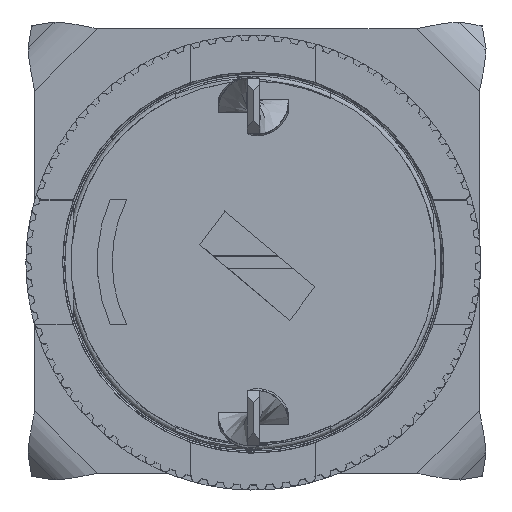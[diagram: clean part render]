
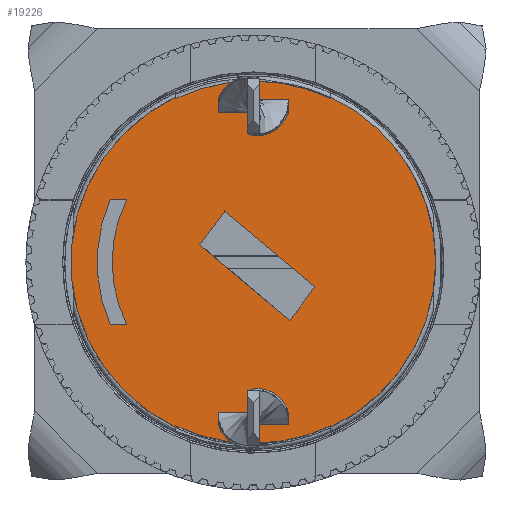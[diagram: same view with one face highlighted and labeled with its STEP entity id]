
A CAD part, top view. The second image highlights one B-rep face of the part: STEP entity #19226.
In plain terms, the highlighted planar face has unit normal (0, 0, 1).
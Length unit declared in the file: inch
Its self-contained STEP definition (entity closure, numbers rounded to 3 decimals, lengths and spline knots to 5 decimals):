
#4682=DIRECTION('',(0.,1.,0.));
#4683=VECTOR('',#4682,0.05527);
#4684=CARTESIAN_POINT('',(26.9296,1.6579,-8.49927));
#4685=LINE('',#4684,#4683);
#4869=CARTESIAN_POINT('',(30.03011,8.26675,-8.49927));
#4870=DIRECTION('',(0.,0.,-1.));
#4871=DIRECTION('',(0.428,-0.904,0.));
#4872=AXIS2_PLACEMENT_3D('',#4869,#4870,#4871);
#4874=CARTESIAN_POINT('',(30.03011,8.26675,-8.49927));
#4875=DIRECTION('',(0.,0.,-1.));
#4876=DIRECTION('',(-0.425,-0.905,0.));
#4877=AXIS2_PLACEMENT_3D('',#4874,#4875,#4876);
#4879=CARTESIAN_POINT('',(30.03011,8.26675,-8.49927));
#4880=DIRECTION('',(0.,0.,-1.));
#4881=DIRECTION('',(-0.428,0.904,0.));
#4882=AXIS2_PLACEMENT_3D('',#4879,#4880,#4881);
#4884=CARTESIAN_POINT('',(30.03011,8.26675,-8.49927));
#4885=DIRECTION('',(0.,0.,-1.));
#4886=DIRECTION('',(0.425,0.905,0.));
#4887=AXIS2_PLACEMENT_3D('',#4884,#4885,#4886);
#4889=CARTESIAN_POINT('',(30.03011,8.26675,-8.49927));
#4890=DIRECTION('',(0.,0.,-1.));
#4891=DIRECTION('',(1.,0.,0.));
#4892=AXIS2_PLACEMENT_3D('',#4889,#4890,#4891);
#4894=CARTESIAN_POINT('',(30.03011,8.26675,-8.49927));
#4895=DIRECTION('',(0.,0.,1.));
#4896=DIRECTION('',(-0.916,0.4,0.));
#4897=AXIS2_PLACEMENT_3D('',#4894,#4895,#4896);
#4899=CARTESIAN_POINT('',(30.03011,8.26675,-8.49927));
#4900=DIRECTION('',(0.,0.,-1.));
#4901=DIRECTION('',(-0.897,-0.442,0.));
#4902=AXIS2_PLACEMENT_3D('',#4899,#4900,#4901);
#4904=DIRECTION('',(0.766,-0.643,0.));
#4905=VECTOR('',#4904,4.70844);
#4906=CARTESIAN_POINT('',(27.89156,8.96488,-8.49927));
#4907=LINE('',#4906,#4905);
#4908=DIRECTION('',(0.596,0.803,0.));
#4909=VECTOR('',#4908,1.68302);
#4910=CARTESIAN_POINT('',(31.49819,5.93808,-8.49927));
#4911=LINE('',#4910,#4909);
#4912=DIRECTION('',(-0.766,0.643,0.));
#4913=VECTOR('',#4912,4.70844);
#4914=CARTESIAN_POINT('',(32.50104,7.28968,-8.49927));
#4915=LINE('',#4914,#4913);
#4916=DIRECTION('',(-0.596,-0.803,0.));
#4917=VECTOR('',#4916,1.68302);
#4918=CARTESIAN_POINT('',(28.8944,10.31649,-8.49927));
#4919=LINE('',#4918,#4917);
#4920=DIRECTION('',(0.,-1.,0.));
#4921=VECTOR('',#4920,0.05527);
#4922=CARTESIAN_POINT('',(33.12961,1.71269,-8.49927));
#4923=LINE('',#4922,#4921);
#5464=DIRECTION('',(0.,-1.,0.));
#5465=VECTOR('',#5464,0.05527);
#5466=CARTESIAN_POINT('',(33.13063,14.87559,-8.49927));
#5467=LINE('',#5466,#5465);
#5520=DIRECTION('',(0.,1.,0.));
#5521=VECTOR('',#5520,0.05527);
#5522=CARTESIAN_POINT('',(26.93062,14.8208,-8.49927));
#5523=LINE('',#5522,#5521);
#6854=DIRECTION('',(1.,0.,0.));
#6855=VECTOR('',#6854,0.66142);
#6856=CARTESIAN_POINT('',(24.30209,10.76719,-8.49927));
#6857=LINE('',#6856,#6855);
#6866=DIRECTION('',(-1.,0.,0.));
#6867=VECTOR('',#6866,0.66142);
#6868=CARTESIAN_POINT('',(24.96312,5.76714,-8.49927));
#6869=LINE('',#6868,#6867);
#6976=DIRECTION('',(1.,0.,0.));
#6977=VECTOR('',#6976,2.82);
#6978=CARTESIAN_POINT('',(28.61965,2.26686,-8.49927));
#6979=LINE('',#6978,#6977);
#7064=DIRECTION('',(0.,-1.,0.));
#7065=VECTOR('',#7064,0.5);
#7066=CARTESIAN_POINT('',(31.43965,2.26664,-8.49927));
#7067=LINE('',#7066,#7065);
#7086=DIRECTION('',(-1.,0.,0.));
#7087=VECTOR('',#7086,2.82);
#7088=CARTESIAN_POINT('',(31.43961,1.76664,-8.49927));
#7089=LINE('',#7088,#7087);
#7146=DIRECTION('',(0.,1.,0.));
#7147=VECTOR('',#7146,0.5);
#7148=CARTESIAN_POINT('',(28.61961,1.76686,-8.49927));
#7149=LINE('',#7148,#7147);
#7184=DIRECTION('',(-1.,0.,0.));
#7185=VECTOR('',#7184,2.82);
#7186=CARTESIAN_POINT('',(31.44058,14.26664,-8.49927));
#7187=LINE('',#7186,#7185);
#7266=DIRECTION('',(0.,1.,0.));
#7267=VECTOR('',#7266,0.5);
#7268=CARTESIAN_POINT('',(28.62058,14.26686,-8.49927));
#7269=LINE('',#7268,#7267);
#7286=DIRECTION('',(1.,0.,0.));
#7287=VECTOR('',#7286,2.82);
#7288=CARTESIAN_POINT('',(28.62062,14.76686,-8.49927));
#7289=LINE('',#7288,#7287);
#7344=DIRECTION('',(0.,-1.,0.));
#7345=VECTOR('',#7344,0.5);
#7346=CARTESIAN_POINT('',(31.44062,14.76664,-8.49927));
#7347=LINE('',#7346,#7345);
#13946=CARTESIAN_POINT('',(33.12961,1.71269,
-8.49927));
#13947=CARTESIAN_POINT('',(33.1296,1.65742,
-8.49927));
#13948=VERTEX_POINT('',#13946);
#13949=VERTEX_POINT('',#13947);
#13950=CARTESIAN_POINT('',(26.92961,1.71317,
-8.49927));
#13951=VERTEX_POINT('',#13950);
#13952=CARTESIAN_POINT('',(26.9296,1.6579,
-8.49927));
#13953=VERTEX_POINT('',#13952);
#13954=CARTESIAN_POINT('',(26.93062,14.8208,
-8.49927));
#13955=CARTESIAN_POINT('',(26.93063,14.87607,
-8.49927));
#13956=VERTEX_POINT('',#13954);
#13957=VERTEX_POINT('',#13955);
#13958=CARTESIAN_POINT('',(33.13062,14.82032,
-8.49927));
#13959=VERTEX_POINT('',#13958);
#13960=CARTESIAN_POINT('',(33.13063,14.87559,
-8.49927));
#13961=VERTEX_POINT('',#13960);
#13962=CARTESIAN_POINT('',(24.30209,10.76719,
-8.49927));
#13963=CARTESIAN_POINT('',(24.3017,5.76719,
-8.49927));
#13964=VERTEX_POINT('',#13962);
#13965=VERTEX_POINT('',#13963);
#13966=CARTESIAN_POINT('',(24.96312,5.76714,
-8.49927));
#13967=VERTEX_POINT('',#13966);
#13968=CARTESIAN_POINT('',(24.9635,10.76714,
-8.49927));
#13969=VERTEX_POINT('',#13968);
#13970=CARTESIAN_POINT('',(27.89156,8.96488,
-8.49927));
#13971=CARTESIAN_POINT('',(31.49819,5.93808,
-8.49927));
#13972=VERTEX_POINT('',#13970);
#13973=VERTEX_POINT('',#13971);
#13974=CARTESIAN_POINT('',(32.50104,7.28968,
-8.49927));
#13975=VERTEX_POINT('',#13974);
#13976=CARTESIAN_POINT('',(28.8944,10.31649,
-8.49927));
#13977=VERTEX_POINT('',#13976);
#13978=CARTESIAN_POINT('',(28.61965,2.26686,
-8.49927));
#13979=CARTESIAN_POINT('',(31.43965,2.26664,
-8.49927));
#13980=VERTEX_POINT('',#13978);
#13981=VERTEX_POINT('',#13979);
#13982=CARTESIAN_POINT('',(28.61961,1.76686,
-8.49927));
#13983=VERTEX_POINT('',#13982);
#13984=CARTESIAN_POINT('',(31.43961,1.76664,
-8.49927));
#13985=VERTEX_POINT('',#13984);
#13986=CARTESIAN_POINT('',(31.44058,14.26664,
-8.49927));
#13987=CARTESIAN_POINT('',(28.62058,14.26686,
-8.49927));
#13988=VERTEX_POINT('',#13986);
#13989=VERTEX_POINT('',#13987);
#13990=CARTESIAN_POINT('',(31.44062,14.76664,
-8.49927));
#13991=VERTEX_POINT('',#13990);
#13992=CARTESIAN_POINT('',(28.62062,14.76686,
-8.49927));
#13993=VERTEX_POINT('',#13992);
#14003=CARTESIAN_POINT('',(37.33011,8.26618,
-8.49927));
#14004=VERTEX_POINT('',#14003);
#19162=CARTESIAN_POINT('',(30.03012,8.26675,
-8.49927));
#19163=DIRECTION('',(0.,0.,1.));
#19164=DIRECTION('',(1.,0.,0.));
#19165=AXIS2_PLACEMENT_3D('',#19162,#19163,#19164);
#19166=PLANE('',#19165);
#19168=ORIENTED_EDGE('',*,*,#19167,.F.);
#19170=ORIENTED_EDGE('',*,*,#19169,.T.);
#19171=ORIENTED_EDGE('',*,*,#19112,.F.);
#19173=ORIENTED_EDGE('',*,*,#19172,.T.);
#19175=ORIENTED_EDGE('',*,*,#19174,.F.);
#19177=ORIENTED_EDGE('',*,*,#19176,.T.);
#19179=ORIENTED_EDGE('',*,*,#19178,.F.);
#19181=ORIENTED_EDGE('',*,*,#19180,.T.);
#19183=ORIENTED_EDGE('',*,*,#19182,.T.);
#19184=EDGE_LOOP('',(#19168,#19170,#19171,#19173,#19175,#19177,#19179,#19181,
#19183));
#19185=FACE_OUTER_BOUND('',#19184,.F.);
#19187=ORIENTED_EDGE('',*,*,#19186,.T.);
#19189=ORIENTED_EDGE('',*,*,#19188,.F.);
#19191=ORIENTED_EDGE('',*,*,#19190,.T.);
#19193=ORIENTED_EDGE('',*,*,#19192,.F.);
#19194=EDGE_LOOP('',(#19187,#19189,#19191,#19193));
#19195=FACE_BOUND('',#19194,.F.);
#19197=ORIENTED_EDGE('',*,*,#19196,.T.);
#19199=ORIENTED_EDGE('',*,*,#19198,.T.);
#19201=ORIENTED_EDGE('',*,*,#19200,.T.);
#19203=ORIENTED_EDGE('',*,*,#19202,.T.);
#19204=EDGE_LOOP('',(#19197,#19199,#19201,#19203));
#19205=FACE_BOUND('',#19204,.F.);
#19207=ORIENTED_EDGE('',*,*,#19206,.F.);
#19209=ORIENTED_EDGE('',*,*,#19208,.F.);
#19211=ORIENTED_EDGE('',*,*,#19210,.F.);
#19213=ORIENTED_EDGE('',*,*,#19212,.F.);
#19214=EDGE_LOOP('',(#19207,#19209,#19211,#19213));
#19215=FACE_BOUND('',#19214,.F.);
#19217=ORIENTED_EDGE('',*,*,#19216,.F.);
#19219=ORIENTED_EDGE('',*,*,#19218,.F.);
#19221=ORIENTED_EDGE('',*,*,#19220,.F.);
#19223=ORIENTED_EDGE('',*,*,#19222,.F.);
#19224=EDGE_LOOP('',(#19217,#19219,#19221,#19223));
#19225=FACE_BOUND('',#19224,.F.);
#19226=ADVANCED_FACE('',(#19185,#19195,#19205,#19215,#19225),#19166,.T.);
#4873=CIRCLE('',#4872,7.25);
#4878=CIRCLE('',#4877,7.3);
#4883=CIRCLE('',#4882,7.25);
#4888=CIRCLE('',#4887,7.3);
#4893=CIRCLE('',#4892,7.3);
#4898=CIRCLE('',#4897,6.25);
#4903=CIRCLE('',#4902,5.65);
#19112=EDGE_CURVE('',#13953,#13951,#4685,.T.);
#19167=EDGE_CURVE('',#13948,#13949,#4923,.T.);
#19169=EDGE_CURVE('',#13948,#13951,#4873,.T.);
#19172=EDGE_CURVE('',#13953,#13957,#4878,.T.);
#19174=EDGE_CURVE('',#13956,#13957,#5523,.T.);
#19176=EDGE_CURVE('',#13956,#13959,#4883,.T.);
#19178=EDGE_CURVE('',#13961,#13959,#5467,.T.);
#19180=EDGE_CURVE('',#13961,#14004,#4888,.T.);
#19182=EDGE_CURVE('',#14004,#13949,#4893,.T.);
#19186=EDGE_CURVE('',#13964,#13965,#4898,.T.);
#19188=EDGE_CURVE('',#13967,#13965,#6869,.T.);
#19190=EDGE_CURVE('',#13967,#13969,#4903,.T.);
#19192=EDGE_CURVE('',#13964,#13969,#6857,.T.);
#19196=EDGE_CURVE('',#13972,#13973,#4907,.T.);
#19198=EDGE_CURVE('',#13973,#13975,#4911,.T.);
#19200=EDGE_CURVE('',#13975,#13977,#4915,.T.);
#19202=EDGE_CURVE('',#13977,#13972,#4919,.T.);
#19206=EDGE_CURVE('',#13980,#13981,#6979,.T.);
#19208=EDGE_CURVE('',#13983,#13980,#7149,.T.);
#19210=EDGE_CURVE('',#13985,#13983,#7089,.T.);
#19212=EDGE_CURVE('',#13981,#13985,#7067,.T.);
#19216=EDGE_CURVE('',#13988,#13989,#7187,.T.);
#19218=EDGE_CURVE('',#13991,#13988,#7347,.T.);
#19220=EDGE_CURVE('',#13993,#13991,#7289,.T.);
#19222=EDGE_CURVE('',#13989,#13993,#7269,.T.);
